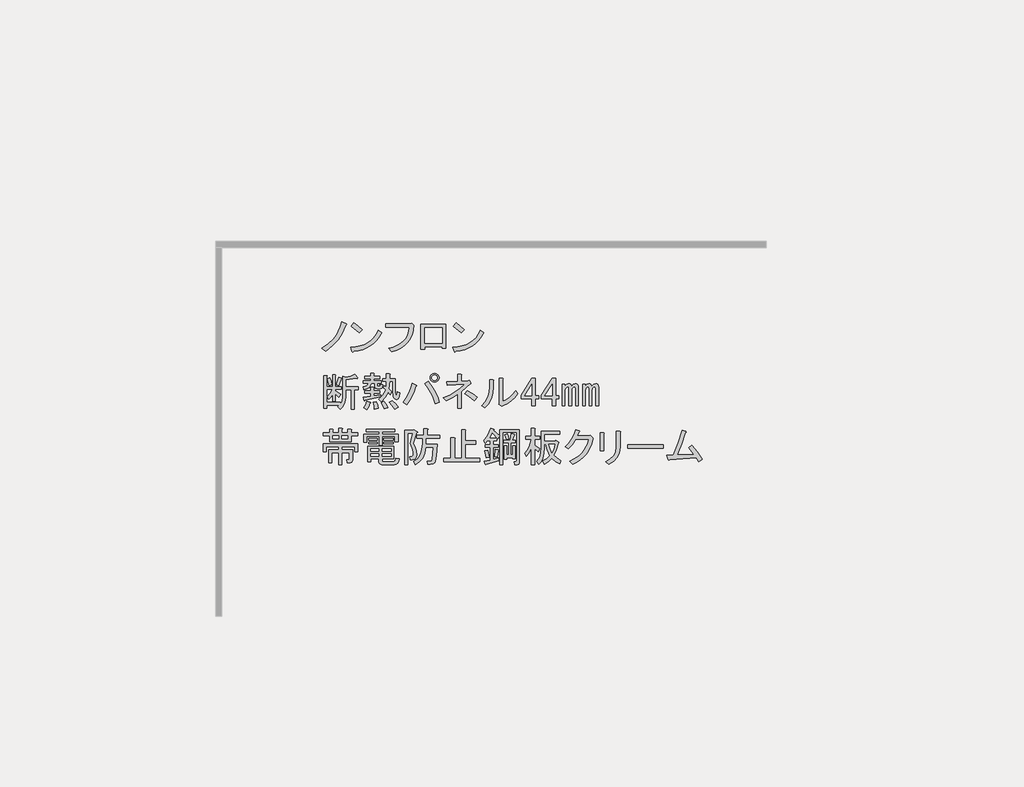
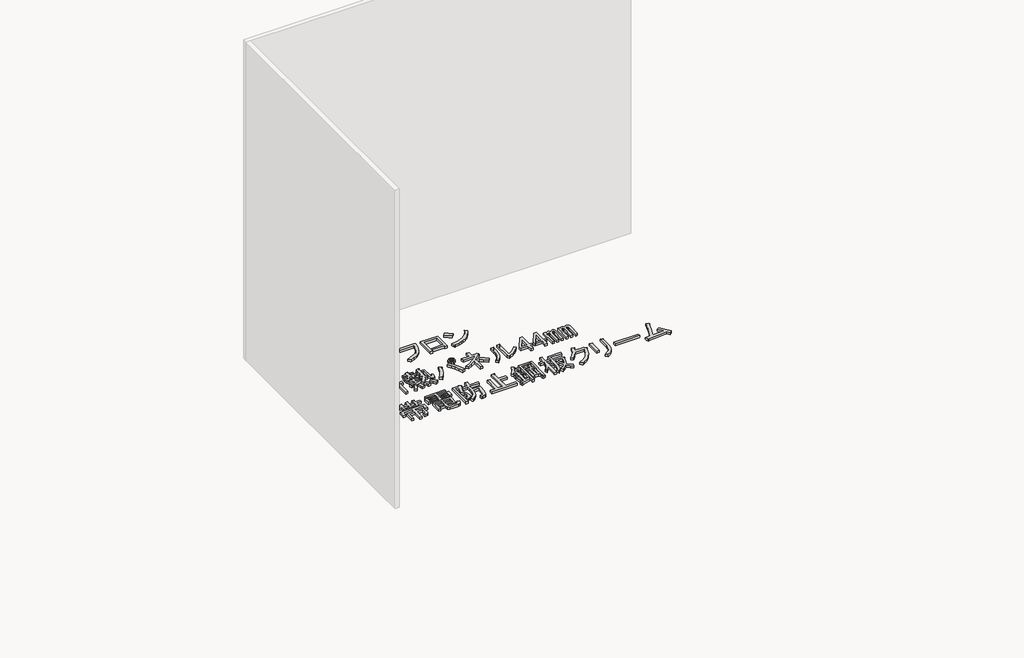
# One storey, part 71 of 117: 1 proxy.
"""IFC4 building model written with IfcOpenShell, lengths in millimetres."""

from ifc_helpers import new_model, si_unit, frame, origin, place, context, project, spatial, polyline, outline, extrude, element, save

model = new_model("IFC4")

# Units and contexts
model_context = context("Model", 3, world=origin())
ifc_project = project(units=[si_unit("LENGTHUNIT", "METRE", prefix="MILLI")], contexts=[model_context])

# Site, building, storey
site = spatial("IfcSite", under=ifc_project)
building = spatial("IfcBuilding", under=site)
storey = spatial("IfcBuildingStorey", under=building, Name="レベル 1", Elevation=500.0)

# Proxy
placement = place(None, origin())
element("IfcBuildingElementProxy", 1, Name="200㎜\u3000MS Pゴシック", ObjectType="200㎜\u3000MS Pゴシック", at=placement, inside=storey, context=model_context, shape_type="SweptSolid", body=[
    extrude(outline(polyline([(-15056.3293015, 11392.9503118), (-15081.9047498, 11333.1784775), (-15110.353844, 11287.2001434), (-15152.0217093, 11241.7965385), (-15201.1610538, 11204.439142), (-15228.7480543, 11226.2788507), (-15181.0455327, 11256.7394971), (-15141.3892195, 11295.2463519), (-15124.0036619, 11319.1694538), (-15108.6296565, 11347.2593423), (-15095.2672031, 11379.5160173), (-15083.9163019, 11415.9394788), (-15052.8809264, 11402.1459786), (-15049.7199159, 11397.5481452), (-15056.3293015, 11392.9503118)])), frame((0.0, 0.0, 500.0), z_axis=(0.0, 0.0, 1.0), x_axis=(1.0, 0.0, 0.0)), (0.0, 0.0, 1.0), 25.0),
    extrude(outline(polyline([(-14956.6022948, 11337.7763109), (-15015.2246708, 11384.9041033), (-14995.6838788, 11409.0427287), (-14968.3842429, 11389.2145721), (-14934.7625862, 11359.6160196), (-14956.6022948, 11337.7763109)])), frame((0.0, 0.0, 500.0), z_axis=(0.0, 0.0, 1.0), x_axis=(1.0, 0.0, 0.0)), (0.0, 0.0, 1.0), 25.0),
    extrude(outline(polyline([(-14794.5286672, 11337.7763109), (-14811.052131, 11308.034076), (-14830.1618761, 11282.0275808), (-14851.8579025, 11259.7568252), (-14876.1402102, 11241.2218093), (-14903.0087992, 11226.422533), (-14932.4636694, 11215.3589964), (-14964.504821, 11208.0311994), (-14999.1322539, 11204.439142), (-15004.8795456, 11196.3929336), (-15010.6268374, 11202.1402253), (-15019.8225042, 11232.0261425), (-14983.9917321, 11234.7022252), (-14951.2142088, 11241.0062859), (-14921.4899342, 11250.9383244), (-14894.8189084, 11264.4983409), (-14871.2011313, 11281.6863354), (-14850.636603, 11302.5023077), (-14833.1253234, 11326.946258), (-14818.6672926, 11355.0181862), (-14794.5286672, 11337.7763109)])), frame((0.0, 0.0, 500.0), z_axis=(0.0, 0.0, 1.0), x_axis=(1.0, 0.0, 0.0)), (0.0, 0.0, 1.0), 25.0),
    extrude(outline(polyline([(-14743.7685864, 11222.8304757), (-14709.985287, 11232.5110702), (-14680.4765359, 11244.8857078), (-14655.242333, 11259.9543884), (-14634.2826783, 11277.717112), (-14617.597572, 11298.1738786), (-14605.1870138, 11321.3246882), (-14597.0510039, 11347.1695409), (-14593.1895423, 11375.7084365), (-14765.6082951, 11375.7084365), (-14765.6082951, 11400.9965202), (-14590.8906256, 11400.9965202), (-14574.7982086, 11404.4448953), (-14562.1541668, 11392.9503118), (-14565.674383, 11356.4550091), (-14573.9361149, 11323.4080815), (-14586.9393625, 11293.8095289), (-14604.6841258, 11267.6593514), (-14627.1704048, 11244.957549), (-14654.3981995, 11225.7041216), (-14686.3675099, 11209.8990692), (-14723.078336, 11197.5423919), (-14743.7685864, 11222.8304757)])), frame((0.0, 0.0, 500.0), z_axis=(0.0, 0.0, 1.0), x_axis=(1.0, 0.0, 0.0)), (0.0, 0.0, 1.0), 25.0),
    extrude(outline(polyline([(-14329.044013, 11223.979934), (-14355.4815551, 11223.979934), (-14355.4815551, 11236.6239759), (-14483.0714321, 11236.6239759), (-14483.0714321, 11218.2326423), (-14509.5089742, 11218.2326423), (-14509.5089742, 11397.5481452), (-14329.044013, 11397.5481452), (-14329.044013, 11223.979934)]), holes=[polyline([(-14483.0714321, 11372.2600614), (-14483.0714321, 11261.9120596), (-14355.4815551, 11261.9120596), (-14355.4815551, 11372.2600614), (-14483.0714321, 11372.2600614)])]), frame((0.0, 0.0, 500.0), z_axis=(0.0, 0.0, 1.0), x_axis=(1.0, 0.0, 0.0)), (0.0, 0.0, 1.0), 25.0),
    extrude(outline(polyline([(-14052.9900951, 11337.7763109), (-14069.5135589, 11308.034076), (-14088.623304, 11282.0275808), (-14110.3193304, 11259.7568252), (-14134.6016381, 11241.2218093), (-14161.4702271, 11226.422533), (-14190.9250974, 11215.3589964), (-14222.9662489, 11208.0311994), (-14257.5936818, 11204.439142), (-14263.3409736, 11196.3929336), (-14269.0882653, 11202.1402253), (-14278.2839321, 11232.0261425), (-14242.4531601, 11234.7022252), (-14209.6756367, 11241.0062859), (-14179.9513622, 11250.9383244), (-14153.2803363, 11264.4983409), (-14129.6625593, 11281.6863354), (-14109.0980309, 11302.5023077), (-14091.5867514, 11326.946258), (-14077.1287205, 11355.0181862), (-14052.9900951, 11337.7763109)])), frame((0.0, 0.0, 500.0), z_axis=(0.0, 0.0, 1.0), x_axis=(1.0, 0.0, 0.0)), (0.0, 0.0, 1.0), 25.0),
    extrude(outline(polyline([(-14215.0637228, 11337.7763109), (-14273.6860987, 11384.9041033), (-14254.1453067, 11409.0427287), (-14226.8456709, 11389.2145721), (-14193.2240141, 11359.6160196), (-14215.0637228, 11337.7763109)])), frame((0.0, 0.0, 500.0), z_axis=(0.0, 0.0, 1.0), x_axis=(1.0, 0.0, 0.0)), (0.0, 0.0, 1.0), 25.0),
    extrude(outline(polyline([(-15122.9978859, 10960.7654779), (-15105.7560106, 11013.6405621), (-15085.0657603, 11007.8932704), (-15083.3415727, 11004.7322599), (-15087.364677, 11002.1459786), (-15104.6065522, 10953.8687278), (-15122.9978859, 10960.7654779)])), frame((0.0, 0.0, 500.0), z_axis=(0.0, 0.0, 1.0), x_axis=(1.0, 0.0, 0.0)), (0.0, 0.0, 1.0), 25.0),
    extrude(outline(polyline([(-14968.9704667, 11009.0427287), (-14970.6946542, 11004.4448953), (-14978.1661335, 11006.743812), (-15055.1798431, 10994.0997701), (-15055.1798431, 10944.673061), (-14963.2231749, 10944.673061), (-14963.2231749, 10922.8333523), (-14994.2585505, 10922.8333523), (-14994.2585505, 10782.5994334), (-15017.2477175, 10782.5994334), (-15017.2477175, 10922.8333523), (-15055.1798431, 10922.8333523), (-15055.1798431, 10873.4066432), (-15057.7661244, 10845.6041193), (-15065.5249683, 10820.8189236), (-15078.4563747, 10799.051056), (-15096.5603438, 10780.3005167), (-15113.8022191, 10799.8413086), (-15103.4570939, 10809.0369755), (-15193.1148454, 10809.0369755), (-15193.1148454, 10787.1972668), (-15216.1040124, 10787.1972668), (-15216.1040124, 11026.284604), (-15194.2643037, 11026.284604), (-15189.3791057, 11023.9856873), (-15193.1148454, 11019.3878539), (-15193.1148454, 10943.5236026), (-15150.5848863, 10943.5236026), (-15150.5848863, 11030.8824374), (-15132.1935527, 11030.8824374), (-15127.3083547, 11028.5835207), (-15131.0440943, 11023.9856873), (-15131.0440943, 10943.5236026), (-15087.364677, 10943.5236026), (-15087.364677, 10925.132269), (-15131.0440943, 10925.132269), (-15131.0440943, 10915.9366022), (-15090.813052, 10889.4990601), (-15104.6065522, 10867.6593514), (-15131.0440943, 10894.0968935), (-15131.0440943, 10841.2218093), (-15150.5848863, 10841.2218093), (-15150.5848863, 10889.4990601), (-15163.8036574, 10869.6709035), (-15178.1718868, 10853.8658512), (-15190.8159287, 10872.2571848), (-15168.97622, 10896.3958102), (-15151.7343447, 10925.132269), (-15193.1148454, 10925.132269), (-15193.1148454, 10830.8766841), (-15095.4108854, 10830.8766841), (-15095.4108854, 10817.0831839), (-15082.479479, 10841.2218093), (-15078.1690102, 10874.5561015), (-15078.1690102, 11019.3878539), (-15056.3293015, 11013.6405621), (-15020.1213634, 11021.1120414), (-14989.660717, 11034.3308125), (-14968.9704667, 11009.0427287)])), frame((0.0, 0.0, 500.0), z_axis=(0.0, 0.0, 1.0), x_axis=(1.0, 0.0, 0.0)), (0.0, 0.0, 1.0), 25.0),
    extrude(outline(polyline([(-15177.0224284, 10952.7192695), (-15189.6664703, 11003.2954369), (-15170.1256783, 11010.1921871), (-15162.3668344, 10986.0535617), (-15157.4816364, 10959.6160196), (-15177.0224284, 10952.7192695)])), frame((0.0, 0.0, 500.0), z_axis=(0.0, 0.0, 1.0), x_axis=(1.0, 0.0, 0.0)), (0.0, 0.0, 1.0), 25.0),
    extrude(outline(polyline([(-14878.1632569, 10832.0261425), (-14874.7148818, 10827.1409445), (-14880.4621736, 10823.979934), (-14890.2325696, 10798.4044857), (-14901.1524239, 10779.1510583), (-14924.141591, 10790.6456418), (-14911.4975491, 10814.209538), (-14901.1524239, 10841.2218093), (-14878.1632569, 10832.0261425)])), frame((0.0, 0.0, 500.0), z_axis=(0.0, 0.0, 1.0), x_axis=(1.0, 0.0, 0.0)), (0.0, 0.0, 1.0), 25.0),
    extrude(outline(polyline([(-14833.3343812, 10836.6239759), (-14823.2766206, 10809.32434), (-14818.3914226, 10787.1972668), (-14847.1278814, 10781.449975), (-14849.7141627, 10803.0023191), (-14857.4730066, 10833.1756008), (-14833.3343812, 10836.6239759)])), frame((0.0, 0.0, 500.0), z_axis=(0.0, 0.0, 1.0), x_axis=(1.0, 0.0, 0.0)), (0.0, 0.0, 1.0), 25.0),
    extrude(outline(polyline([(-14718.388546, 10842.3712677), (-14693.6751914, 10821.1062881), (-14674.7091286, 10796.3929336), (-14701.1466707, 10781.449975), (-14720.4000981, 10811.0485276), (-14739.0787963, 10830.8766841), (-14718.388546, 10842.3712677)])), frame((0.0, 0.0, 500.0), z_axis=(0.0, 0.0, 1.0), x_axis=(1.0, 0.0, 0.0)), (0.0, 0.0, 1.0), 25.0),
    extrude(outline(polyline([(-14777.0109219, 10783.7488917), (-14785.344495, 10808.4622463), (-14798.8506306, 10829.7272258), (-14778.1603803, 10837.7734343), (-14761.2058696, 10816.2210902), (-14749.4239215, 10792.9445585), (-14777.0109219, 10783.7488917)])), frame((0.0, 0.0, 500.0), z_axis=(0.0, 0.0, 1.0), x_axis=(1.0, 0.0, 0.0)), (0.0, 0.0, 1.0), 25.0),
    extrude(outline(polyline([(-14916.0953825, 10846.9691011), (-14918.1069346, 10842.0839031), (-14921.8426743, 10843.520726), (-14927.589966, 10867.6593514), (-14872.4159651, 10875.7055599), (-14872.4159651, 10898.6947269), (-14916.0953825, 10898.6947269), (-14916.0953825, 10917.0860605), (-14872.4159651, 10917.0860605), (-14872.4159651, 10940.0752276), (-14854.0246315, 10940.0752276), (-14849.1394335, 10937.7763109), (-14852.8751732, 10933.1784775), (-14852.8751732, 10917.0860605), (-14808.0462974, 10917.0860605), (-14808.0462974, 10898.6947269), (-14852.8751732, 10898.6947269), (-14852.8751732, 10879.1539349), (-14802.2990057, 10888.3496017), (-14802.2990057, 10872.2571848), (-14916.0953825, 10846.9691011)])), frame((0.0, 0.0, 500.0), z_axis=(0.0, 0.0, 1.0), x_axis=(1.0, 0.0, 0.0)), (0.0, 0.0, 1.0), 25.0),
    extrude(outline(polyline([(-14845.978423, 10968.8116864), (-14871.2665068, 10968.8116864), (-14875.8643402, 10951.3542877), (-14886.2094654, 10938.0636755), (-14902.3018823, 10928.9398498), (-14924.141591, 10923.9828107), (-14928.7394244, 10943.5236026), (-14903.4513406, 10952.1445403), (-14895.9798614, 10959.4723373), (-14891.9567571, 10968.8116864), (-14927.589966, 10968.8116864), (-14927.589966, 10987.20302), (-14873.5654235, 10987.20302), (-14873.5654235, 11004.4448953), (-14917.2448409, 11004.4448953), (-14917.2448409, 11022.8362289), (-14873.5654235, 11022.8362289), (-14873.5654235, 11041.2275626), (-14851.7257148, 11041.2275626), (-14846.8405168, 11038.9286459), (-14850.5762564, 11034.3308125), (-14850.5762564, 11022.8362289), (-14808.0462974, 11022.8362289), (-14808.0462974, 11004.4448953), (-14850.5762564, 11004.4448953), (-14850.5762564, 10987.20302), (-14797.7011723, 10987.20302), (-14797.7011723, 10968.8116864), (-14826.4376311, 10968.8116864), (-14826.4376311, 10956.1676445), (-14825.0008081, 10950.9950819), (-14820.6903393, 10949.2708944), (-14810.3452141, 10949.2708944), (-14806.6094745, 10952.4319049), (-14806.8968391, 10961.9149363), (-14787.3560471, 10959.6160196), (-14790.229693, 10938.0636755), (-14795.5459378, 10932.6755894), (-14803.448464, 10930.8795608), (-14827.5870894, 10930.8795608), (-14841.3805896, 10935.7647588), (-14845.978423, 10950.4203528), (-14845.978423, 10968.8116864)])), frame((0.0, 0.0, 500.0), z_axis=(0.0, 0.0, 1.0), x_axis=(1.0, 0.0, 0.0)), (0.0, 0.0, 1.0), 25.0),
    extrude(outline(polyline([(-14714.9401709, 10986.0535617), (-14736.7798796, 10986.0535617), (-14741.377713, 10928.5806441), (-14721.836921, 10910.1893104), (-14732.1820462, 10888.3496017), (-14748.2744631, 10904.4420187), (-14767.5278905, 10866.7972576), (-14797.7011723, 10834.3250592), (-14814.9430475, 10855.0153095), (-14799.8564067, 10866.9409399), (-14786.7813179, 10882.0275808), (-14775.7177813, 10900.2752321), (-14766.6657967, 10921.683894), (-14783.907672, 10936.6268525), (-14775.8614636, 10953.8687278), (-14762.0679633, 10943.5236026), (-14759.7690466, 10986.0535617), (-14787.3560471, 10986.0535617), (-14787.3560471, 11004.4448953), (-14759.7690466, 11004.4448953), (-14759.7690466, 11038.9286459), (-14737.9293379, 11038.9286459), (-14733.04414, 11036.6297292), (-14736.7798796, 11032.0318957), (-14736.7798796, 11004.4448953), (-14695.3993789, 11004.4448953), (-14695.3993789, 10907.8903937), (-14691.9510039, 10883.7517683), (-14688.7181523, 10881.7402162), (-14685.9163475, 10884.9012267), (-14681.6058787, 10906.7409354), (-14662.0650867, 10899.8441853), (-14666.591079, 10873.0474374), (-14674.421764, 10857.0268616), (-14685.5571418, 10851.7824579), (-14699.9972123, 10857.3142262), (-14706.5347567, 10864.6420232), (-14711.2044313, 10876.280289), (-14714.9401709, 10912.4882271), (-14714.9401709, 10986.0535617)])), frame((0.0, 0.0, 500.0), z_axis=(0.0, 0.0, 1.0), x_axis=(1.0, 0.0, 0.0)), (0.0, 0.0, 1.0), 25.0),
    extrude(outline(polyline([(-14456.3120417, 10983.754645), (-14429.6589762, 10947.0438188), (-14407.1726971, 10909.3272167), (-14388.8532047, 10870.6048384), (-14374.7004987, 10830.8766841), (-14405.7358742, 10820.531559), (-14421.1817208, 10863.6362472), (-14438.7828018, 10902.143102), (-14458.5391173, 10936.0521234), (-14480.4506671, 10965.3633113), (-14456.3120417, 10983.754645)])), frame((0.0, 0.0, 500.0), z_axis=(0.0, 0.0, 1.0), x_axis=(1.0, 0.0, 0.0)), (0.0, 0.0, 1.0), 25.0),
    extrude(outline(polyline([(-14543.6708765, 10957.3171029), (-14539.6477722, 10951.8571757), (-14545.9697932, 10946.9719777), (-14557.8954236, 10911.5542922), (-14572.9820644, 10877.717112), (-14591.2297158, 10845.460437), (-14612.6383776, 10814.7842672), (-14639.0759197, 10832.0261425), (-14615.8712292, 10863.4925649), (-14596.8333252, 10896.9705394), (-14581.9622078, 10932.460066), (-14571.2578769, 10969.9611447), (-14543.6708765, 10957.3171029)])), frame((0.0, 0.0, 500.0), z_axis=(0.0, 0.0, 1.0), x_axis=(1.0, 0.0, 0.0)), (0.0, 0.0, 1.0), 25.0),
    extrude(outline(polyline([(-14410.3337076, 10978.0073532), (-14422.9777495, 10980.3062699), (-14433.3228747, 10987.20302), (-14440.2196248, 10997.5481452), (-14442.5185415, 11010.1921871), (-14440.2196248, 11022.8362289), (-14433.3228747, 11033.1813541), (-14422.9777495, 11040.0781042), (-14410.3337076, 11042.3770209), (-14397.6896657, 11040.0781042), (-14387.3445406, 11033.1813541), (-14380.4477905, 11022.8362289), (-14378.1488738, 11010.1921871), (-14380.4477905, 10997.5481452), (-14387.3445406, 10987.20302), (-14397.6896657, 10980.3062699), (-14410.3337076, 10978.0073532)]), holes=[polyline([(-14410.3337076, 10989.5019367), (-14402.0001346, 10990.9387597), (-14395.390749, 10995.2492285), (-14391.0802802, 11001.858614), (-14389.6434573, 11010.1921871), (-14391.0802802, 11018.5257601), (-14395.390749, 11025.1351456), (-14402.0001346, 11029.4456145), (-14410.3337076, 11030.8824374), (-14418.6672807, 11029.4456145), (-14425.2766662, 11025.1351456), (-14429.587135, 11018.5257601), (-14431.023958, 11010.1921871), (-14429.587135, 11001.858614), (-14425.2766662, 10995.2492285), (-14418.6672807, 10990.9387597), (-14410.3337076, 10989.5019367)])]), frame((0.0, 0.0, 500.0), z_axis=(0.0, 0.0, 1.0), x_axis=(1.0, 0.0, 0.0)), (0.0, 0.0, 1.0), 25.0),
    extrude(outline(polyline([(-14120.6702029, 10844.6701844), (-14157.7402348, 10873.9813723), (-14190.7871624, 10895.2463519), (-14173.5452871, 10917.0860605), (-14134.7510677, 10893.8095289), (-14101.1294109, 10867.6593514), (-14120.6702029, 10844.6701844)])), frame((0.0, 0.0, 500.0), z_axis=(0.0, 0.0, 1.0), x_axis=(1.0, 0.0, 0.0)), (0.0, 0.0, 1.0), 25.0),
    extrude(outline(polyline([(-14166.648537, 10988.3524784), (-14159.7517869, 10990.6513951), (-14147.107745, 10973.4095198), (-14145.9582866, 10967.3748634), (-14151.7055784, 10965.3633113), (-14214.9257878, 10909.0398521), (-14214.9257878, 10788.3467251), (-14241.3633299, 10788.3467251), (-14241.3633299, 10890.6485184), (-14281.5943722, 10866.5098931), (-14326.4232479, 10844.6701844), (-14345.9640399, 10865.3604347), (-14300.4167527, 10884.8293855), (-14259.1799343, 10907.6030291), (-14222.2535848, 10933.6813655), (-14189.637704, 10963.0643946), (-14319.5264978, 10957.3171029), (-14322.9748729, 10982.6051866), (-14241.3633299, 10984.9041033), (-14241.3633299, 11036.6297292), (-14218.3741628, 11036.6297292), (-14212.3395065, 11033.1813541), (-14214.9257878, 11027.4340623), (-14214.9257878, 10986.0535617), (-14166.648537, 10988.3524784)])), frame((0.0, 0.0, 500.0), z_axis=(0.0, 0.0, 1.0), x_axis=(1.0, 0.0, 0.0)), (0.0, 0.0, 1.0), 25.0),
    extrude(outline(polyline([(-14067.703162, 10806.7380587), (-14042.5587606, 10835.9774056), (-14024.5984738, 10868.5214452), (-14013.8223018, 10904.3701775), (-14010.2302444, 10943.5236026), (-14010.2302444, 10995.2492285), (-13986.091619, 10995.2492285), (-13980.3443273, 10991.8008534), (-13983.7927023, 10986.0535617), (-13983.7927023, 10944.673061), (-13987.6002831, 10898.9102504), (-13999.0230255, 10858.17632), (-14018.0609295, 10822.4712699), (-14044.713995, 10791.7951002), (-14067.703162, 10806.7380587)])), frame((0.0, 0.0, 500.0), z_axis=(0.0, 0.0, 1.0), x_axis=(1.0, 0.0, 0.0)), (0.0, 0.0, 1.0), 25.0),
    extrude(outline(polyline([(-13913.6757429, 10837.7734343), (-13888.8905471, 10849.9864292), (-13865.1111275, 10867.0846222), (-13842.3374839, 10889.0680132), (-13820.5696163, 10915.9366022), (-13804.4771994, 10894.0968935), (-13827.753731, 10866.2943696), (-13853.9039086, 10842.6586322), (-13882.9277319, 10823.1896814), (-13914.8252012, 10807.8875171), (-13924.020868, 10803.2896837), (-13942.4122017, 10817.0831839), (-13940.113285, 10822.8304757), (-13940.113285, 11007.8932704), (-13915.9746596, 11007.8932704), (-13910.2273678, 11004.4448953), (-13913.6757429, 10998.6976035), (-13913.6757429, 10837.7734343)])), frame((0.0, 0.0, 500.0), z_axis=(0.0, 0.0, 1.0), x_axis=(1.0, 0.0, 0.0)), (0.0, 0.0, 1.0), 25.0),
    extrude(outline(polyline([(-13704.4743228, 11006.743812), (-13678.0367807, 11006.743812), (-13678.0367807, 10880.3033933), (-13653.8981553, 10880.3033933), (-13653.8981553, 10858.4636846), (-13678.0367807, 10858.4636846), (-13678.0367807, 10807.8875171), (-13704.4743228, 10807.8875171), (-13704.4743228, 10858.4636846), (-13781.4880324, 10858.4636846), (-13781.4880324, 10881.4528516), (-13704.4743228, 11006.743812)]), holes=[polyline([(-13704.4743228, 10964.213853), (-13756.1999486, 10880.3033933), (-13704.4743228, 10880.3033933), (-13704.4743228, 10964.213853)])]), frame((0.0, 0.0, 500.0), z_axis=(0.0, 0.0, 1.0), x_axis=(1.0, 0.0, 0.0)), (0.0, 0.0, 1.0), 25.0),
    extrude(outline(polyline([(-13557.3436537, 11006.743812), (-13530.9061116, 11006.743812), (-13530.9061116, 10880.3033933), (-13506.7674862, 10880.3033933), (-13506.7674862, 10858.4636846), (-13530.9061116, 10858.4636846), (-13530.9061116, 10807.8875171), (-13557.3436537, 10807.8875171), (-13557.3436537, 10858.4636846), (-13634.3573633, 10858.4636846), (-13634.3573633, 10881.4528516), (-13557.3436537, 11006.743812)]), holes=[polyline([(-13557.3436537, 10964.213853), (-13609.0692796, 10880.3033933), (-13557.3436537, 10880.3033933), (-13557.3436537, 10964.213853)])]), frame((0.0, 0.0, 500.0), z_axis=(0.0, 0.0, 1.0), x_axis=(1.0, 0.0, 0.0)), (0.0, 0.0, 1.0), 25.0),
    extrude(outline(polyline([(-13463.0880689, 10806.7380587), (-13482.6288608, 10806.7380587), (-13482.6288608, 10964.213853), (-13463.0880689, 10964.213853), (-13463.0880689, 10946.9719777), (-13451.0187562, 10962.4896654), (-13437.7999851, 10967.662228), (-13428.6043183, 10966.2254051), (-13421.7075682, 10961.9149363), (-13414.8108181, 10948.121436), (-13401.8794116, 10962.77703), (-13388.373276, 10967.662228), (-13380.0397029, 10966.2254051), (-13373.4303174, 10961.9149363), (-13368.2577548, 10953.2939986), (-13366.5335673, 10941.2246859), (-13366.5335673, 10806.7380587), (-13386.0743593, 10806.7380587), (-13386.0743593, 10930.8795608), (-13388.6606406, 10940.3625922), (-13396.4194844, 10943.5236026), (-13406.7646096, 10938.9257692), (-13412.799266, 10930.3048316), (-13414.8108181, 10920.5344356), (-13414.8108181, 10806.7380587), (-13434.3516101, 10806.7380587), (-13434.3516101, 10930.8795608), (-13436.9378914, 10940.3625922), (-13444.6967352, 10943.5236026), (-13455.0418604, 10938.9257692), (-13461.0765167, 10930.3048316), (-13463.0880689, 10920.5344356), (-13463.0880689, 10806.7380587)])), frame((0.0, 0.0, 500.0), z_axis=(0.0, 0.0, 1.0), x_axis=(1.0, 0.0, 0.0)), (0.0, 0.0, 1.0), 25.0),
    extrude(outline(polyline([(-13241.2426069, 10967.662228), (-13232.9090339, 10966.2254051), (-13226.2996483, 10961.9149363), (-13221.1270858, 10953.2939986), (-13219.4028982, 10941.2246859), (-13219.4028982, 10806.7380587), (-13238.9436902, 10806.7380587), (-13238.9436902, 10930.8795608), (-13241.5299715, 10940.3625922), (-13249.2888154, 10943.5236026), (-13259.6339406, 10938.9257692), (-13265.6685969, 10930.3048316), (-13267.680149, 10920.5344356), (-13267.680149, 10806.7380587), (-13287.220941, 10806.7380587), (-13287.220941, 10930.8795608), (-13289.8072223, 10940.3625922), (-13297.5660662, 10943.5236026), (-13307.9111913, 10938.9257692), (-13313.9458477, 10930.3048316), (-13315.9573998, 10920.5344356), (-13315.9573998, 10806.7380587), (-13335.4981918, 10806.7380587), (-13335.4981918, 10964.213853), (-13315.9573998, 10964.213853), (-13315.9573998, 10946.9719777), (-13303.8880871, 10962.4896654), (-13290.6693161, 10967.662228), (-13281.4736492, 10966.2254051), (-13274.5768991, 10961.9149363), (-13267.680149, 10948.121436), (-13254.7487426, 10962.77703), (-13241.2426069, 10967.662228)])), frame((0.0, 0.0, 500.0), z_axis=(0.0, 0.0, 1.0), x_axis=(1.0, 0.0, 0.0)), (0.0, 0.0, 1.0), 25.0),
    extrude(outline(polyline([(-15172.424595, 10546.9719777), (-15172.424595, 10567.662228), (-15172.424595, 10588.3524784), (-15218.4029291, 10588.3524784), (-15218.4029291, 10610.1921871), (-15172.424595, 10610.1921871), (-15172.424595, 10635.4802708), (-15150.5848863, 10635.4802708), (-15145.6996883, 10633.1813541), (-15149.435428, 10628.5835207), (-15149.435428, 10610.1921871), (-15105.7560106, 10610.1921871), (-15105.7560106, 10642.3770209), (-15083.9163019, 10642.3770209), (-15079.0311039, 10640.0781042), (-15082.7668436, 10635.4802708), (-15082.7668436, 10610.1921871), (-15040.2368845, 10610.1921871), (-15040.2368845, 10635.4802708), (-15018.3971758, 10635.4802708), (-15013.5119779, 10633.1813541), (-15017.2477175, 10628.5835207), (-15017.2477175, 10610.1921871), (-14970.1199251, 10610.1921871), (-14970.1199251, 10588.3524784), (-15017.2477175, 10588.3524784), (-15017.2477175, 10546.9719777), (-15172.424595, 10546.9719777)]), holes=[polyline([(-15105.7560106, 10588.3524784), (-15149.435428, 10588.3524784), (-15149.435428, 10565.3633113), (-15105.7560106, 10565.3633113), (-15105.7560106, 10588.3524784)]), polyline([(-15040.2368845, 10588.3524784), (-15082.7668436, 10588.3524784), (-15082.7668436, 10565.3633113), (-15040.2368845, 10565.3633113), (-15040.2368845, 10588.3524784)])]), frame((0.0, 0.0, 500.0), z_axis=(0.0, 0.0, 1.0), x_axis=(1.0, 0.0, 0.0)), (0.0, 0.0, 1.0), 25.0),
    extrude(outline(polyline([(-14967.8210084, 10473.4066432), (-14990.8101754, 10473.4066432), (-14990.8101754, 10510.1893104), (-15082.7668436, 10510.1893104), (-15082.7668436, 10486.050685), (-15005.753134, 10486.050685), (-15005.753134, 10411.3358922), (-15010.3509674, 10397.5423919), (-15024.1444676, 10392.9445585), (-15045.9841763, 10392.9445585), (-15049.4325514, 10414.7842672), (-15033.3401344, 10414.7842672), (-15029.8917594, 10415.9337256), (-15028.742301, 10419.3821006), (-15028.742301, 10464.2109763), (-15082.7668436, 10464.2109763), (-15082.7668436, 10376.8521416), (-15105.7560106, 10376.8521416), (-15105.7560106, 10464.2109763), (-15157.4816364, 10464.2109763), (-15157.4816364, 10391.7951002), (-15180.4708035, 10391.7951002), (-15180.4708035, 10486.050685), (-15105.7560106, 10486.050685), (-15105.7560106, 10510.1893104), (-15197.7126788, 10510.1893104), (-15197.7126788, 10473.4066432), (-15220.7018458, 10473.4066432), (-15220.7018458, 10532.0290191), (-14967.8210084, 10532.0290191), (-14967.8210084, 10473.4066432)])), frame((0.0, 0.0, 500.0), z_axis=(0.0, 0.0, 1.0), x_axis=(1.0, 0.0, 0.0)), (0.0, 0.0, 1.0), 25.0),
    extrude(outline(polyline([(-14666.6629201, 10421.6810173), (-14669.4647249, 10403.0741603), (-14676.7206807, 10389.7835481), (-14688.4307877, 10381.8091807), (-14704.5950457, 10379.1510583), (-14794.2527972, 10379.1510583), (-14809.770485, 10384.0362563), (-14813.6499069, 10390.1427538), (-14814.9430475, 10398.6918503), (-14814.9430475, 10420.531559), (-14874.7148818, 10420.531559), (-14874.7148818, 10400.990767), (-14894.2556738, 10400.990767), (-14894.2556738, 10513.6376855), (-14706.8939624, 10513.6376855), (-14706.8939624, 10420.531559), (-14791.9538805, 10420.531559), (-14791.9538805, 10410.1864338), (-14789.9423284, 10403.2896837), (-14783.907672, 10400.990767), (-14708.0434208, 10400.990767), (-14701.4340353, 10402.5712722), (-14696.5488373, 10407.3127879), (-14691.9510039, 10426.2788507), (-14666.6629201, 10421.6810173)]), holes=[polyline([(-14874.7148818, 10438.9228926), (-14814.9430475, 10438.9228926), (-14814.9430475, 10458.4636846), (-14874.7148818, 10458.4636846), (-14874.7148818, 10438.9228926)]), polyline([(-14874.7148818, 10476.8550182), (-14814.9430475, 10476.8550182), (-14814.9430475, 10495.2463519), (-14874.7148818, 10495.2463519), (-14874.7148818, 10476.8550182)]), polyline([(-14791.9538805, 10438.9228926), (-14726.4347544, 10438.9228926), (-14726.4347544, 10458.4636846), (-14791.9538805, 10458.4636846), (-14791.9538805, 10438.9228926)]), polyline([(-14791.9538805, 10476.8550182), (-14726.4347544, 10476.8550182), (-14726.4347544, 10495.2463519), (-14791.9538805, 10495.2463519), (-14791.9538805, 10476.8550182)])]), frame((0.0, 0.0, 500.0), z_axis=(0.0, 0.0, 1.0), x_axis=(1.0, 0.0, 0.0)), (0.0, 0.0, 1.0), 25.0),
    extrude(outline(polyline([(-14888.5083821, 10557.3171029), (-14888.5083821, 10571.1106031), (-14825.2881727, 10571.1106031), (-14825.2881727, 10557.3171029), (-14888.5083821, 10557.3171029)])), frame((0.0, 0.0, 500.0), z_axis=(0.0, 0.0, 1.0), x_axis=(1.0, 0.0, 0.0)), (0.0, 0.0, 1.0), 25.0),
    extrude(outline(polyline([(-14825.2881727, 10529.7301024), (-14888.5083821, 10529.7301024), (-14888.5083821, 10543.5236026), (-14825.2881727, 10543.5236026), (-14825.2881727, 10529.7301024)])), frame((0.0, 0.0, 500.0), z_axis=(0.0, 0.0, 1.0), x_axis=(1.0, 0.0, 0.0)), (0.0, 0.0, 1.0), 25.0),
    extrude(outline(polyline([(-14778.1603803, 10529.7301024), (-14778.1603803, 10543.5236026), (-14711.4917959, 10543.5236026), (-14711.4917959, 10529.7301024), (-14778.1603803, 10529.7301024)])), frame((0.0, 0.0, 500.0), z_axis=(0.0, 0.0, 1.0), x_axis=(1.0, 0.0, 0.0)), (0.0, 0.0, 1.0), 25.0),
    extrude(outline(polyline([(-14778.1603803, 10557.3171029), (-14778.1603803, 10571.1106031), (-14711.4917959, 10571.1106031), (-14711.4917959, 10557.3171029), (-14778.1603803, 10557.3171029)])), frame((0.0, 0.0, 500.0), z_axis=(0.0, 0.0, 1.0), x_axis=(1.0, 0.0, 0.0)), (0.0, 0.0, 1.0), 25.0),
    extrude(outline(polyline([(-14698.847754, 10618.2383955), (-14790.8044221, 10618.2383955), (-14790.8044221, 10599.8470619), (-14675.8585869, 10599.8470619), (-14675.8585869, 10544.673061), (-14698.847754, 10544.673061), (-14698.847754, 10586.0535617), (-14790.8044221, 10586.0535617), (-14790.8044221, 10520.5344356), (-14813.7935892, 10520.5344356), (-14813.7935892, 10586.0535617), (-14902.3018823, 10586.0535617), (-14902.3018823, 10540.0752276), (-14925.2910493, 10540.0752276), (-14925.2910493, 10599.8470619), (-14813.7935892, 10599.8470619), (-14813.7935892, 10618.2383955), (-14905.7502573, 10618.2383955), (-14905.7502573, 10636.6297292), (-14698.847754, 10636.6297292), (-14698.847754, 10618.2383955)])), frame((0.0, 0.0, 500.0), z_axis=(0.0, 0.0, 1.0), x_axis=(1.0, 0.0, 0.0)), (0.0, 0.0, 1.0), 25.0),
    extrude(outline(polyline([(-14542.5214181, 10479.1539349), (-14540.5817071, 10451.4950933), (-14545.1076994, 10431.7387779), (-14556.0993949, 10419.8849886), (-14573.5567936, 10415.9337256), (-14587.3502938, 10415.9337256), (-14591.9481272, 10437.7734343), (-14580.4535437, 10437.7734343), (-14572.1199707, 10439.9286687), (-14566.6600435, 10446.3943719), (-14564.0737622, 10457.1705439), (-14564.3611268, 10472.2571848), (-14571.2578769, 10499.2694561), (-14587.3502938, 10534.3279358), (-14568.9589602, 10605.5943537), (-14603.4427108, 10605.5943537), (-14603.4427108, 10376.8521416), (-14626.4318778, 10376.8521416), (-14626.4318778, 10627.4340623), (-14562.0622101, 10627.4340623), (-14559.7632934, 10632.0318957), (-14535.624668, 10619.3878539), (-14534.187845, 10615.6521142), (-14539.073043, 10613.6405621), (-14565.5105851, 10535.4773942), (-14549.9928974, 10503.0051957), (-14542.5214181, 10479.1539349)])), frame((0.0, 0.0, 500.0), z_axis=(0.0, 0.0, 1.0), x_axis=(1.0, 0.0, 0.0)), (0.0, 0.0, 1.0), 25.0),
    extrude(outline(polyline([(-14475.8528337, 10504.4420187), (-14483.0369484, 10461.2654893), (-14497.6925424, 10425.9914861), (-14519.8196156, 10398.6200091), (-14549.4181682, 10379.1510583), (-14560.9127517, 10402.1402253), (-14533.2539101, 10421.9683819), (-14513.4975947, 10450.4174761), (-14501.6438055, 10487.487508), (-14497.6925424, 10533.1784775), (-14497.6925424, 10571.1106031), (-14541.3719597, 10571.1106031), (-14541.3719597, 10592.9503118), (-14488.4968756, 10592.9503118), (-14488.4968756, 10641.2275626), (-14463.2087918, 10641.2275626), (-14457.1741355, 10637.7791875), (-14462.0593335, 10632.0318957), (-14462.0593335, 10592.9503118), (-14373.5510404, 10592.9503118), (-14373.5510404, 10571.1106031), (-14474.7033753, 10571.1106031), (-14474.7033753, 10526.2817274), (-14391.942374, 10526.2817274), (-14397.6896657, 10444.0954552), (-14405.7358742, 10399.8413086), (-14410.6210722, 10391.2922121), (-14418.3799161, 10385.1857146), (-14442.5185415, 10380.3005167), (-14460.9098751, 10380.3005167), (-14464.3582502, 10402.1402253), (-14447.1163749, 10402.1402253), (-14434.7596976, 10405.3012358), (-14427.5755829, 10414.7842672), (-14418.3799161, 10504.4420187), (-14475.8528337, 10504.4420187)])), frame((0.0, 0.0, 500.0), z_axis=(0.0, 0.0, 1.0), x_axis=(1.0, 0.0, 0.0)), (0.0, 0.0, 1.0), 25.0),
    extrude(outline(polyline([(-14188.4882457, 10633.1813541), (-14182.4535893, 10629.732979), (-14187.3387873, 10623.9856873), (-14187.3387873, 10553.8687278), (-14111.4745361, 10553.8687278), (-14111.4745361, 10528.5806441), (-14187.3387873, 10528.5806441), (-14187.3387873, 10425.1293924), (-14081.5886189, 10425.1293924), (-14081.5886189, 10399.8413086), (-14344.8145815, 10399.8413086), (-14344.8145815, 10425.1293924), (-14291.9394974, 10425.1293924), (-14291.9394974, 10575.7084365), (-14266.6514136, 10575.7084365), (-14260.6167573, 10572.2600614), (-14265.5019553, 10566.5127697), (-14265.5019553, 10425.1293924), (-14213.7763294, 10425.1293924), (-14213.7763294, 10633.1813541), (-14188.4882457, 10633.1813541)])), frame((0.0, 0.0, 500.0), z_axis=(0.0, 0.0, 1.0), x_axis=(1.0, 0.0, 0.0)), (0.0, 0.0, 1.0), 25.0),
    extrude(outline(polyline([(-13950.5503668, 10565.3633113), (-13991.9308675, 10609.0427287), (-14013.7705762, 10569.9611447), (-13958.5965753, 10569.9611447), (-13958.5965753, 10551.5698111), (-13985.0341174, 10551.5698111), (-13985.0341174, 10522.8333523), (-13947.1019917, 10522.8333523), (-13947.1019917, 10504.4420187), (-13985.0341174, 10504.4420187), (-13985.0341174, 10417.0831839), (-13945.9525334, 10427.4283091), (-13943.6536167, 10407.8875171), (-14035.6102848, 10382.5994334), (-14037.9092016, 10376.8521416), (-14042.507035, 10380.3005167), (-14049.4037851, 10403.2896837), (-14004.5749093, 10412.4853505), (-14004.5749093, 10504.4420187), (-14042.507035, 10504.4420187), (-14042.507035, 10522.8333523), (-14004.5749093, 10522.8333523), (-14004.5749093, 10551.5698111), (-14026.414618, 10551.5698111), (-14041.3575766, 10533.1784775), (-14054.0016185, 10553.8687278), (-14025.8398889, 10591.5134888), (-14001.1265343, 10642.3770209), (-13979.2868256, 10636.6297292), (-13975.8384505, 10632.8939895), (-13981.5857423, 10630.8824374), (-13982.7352007, 10627.4340623), (-13937.9063249, 10589.5019367), (-13950.5503668, 10565.3633113)])), frame((0.0, 0.0, 500.0), z_axis=(0.0, 0.0, 1.0), x_axis=(1.0, 0.0, 0.0)), (0.0, 0.0, 1.0), 25.0),
    extrude(outline(polyline([(-13882.732324, 10602.1459786), (-13875.5482093, 10586.9156554), (-13870.0882822, 10566.5127697), (-13887.3301574, 10560.7654779), (-13898.824741, 10597.5481452), (-13882.732324, 10602.1459786)])), frame((0.0, 0.0, 500.0), z_axis=(0.0, 0.0, 1.0), x_axis=(1.0, 0.0, 0.0)), (0.0, 0.0, 1.0), 25.0),
    extrude(outline(polyline([(-13829.8572398, 10600.9965202), (-13827.2709585, 10597.5481452), (-13833.3056149, 10594.0997701), (-13845.9496568, 10556.1676445), (-13825.2594064, 10556.1676445), (-13825.2594064, 10537.7763109), (-13856.2947819, 10537.7763109), (-13856.2947819, 10449.2680178), (-13841.3518234, 10449.2680178), (-13841.3518234, 10517.0860605), (-13825.2594064, 10517.0860605), (-13825.2594064, 10422.8304757), (-13841.3518234, 10422.8304757), (-13841.3518234, 10430.8766841), (-13887.3301574, 10430.8766841), (-13887.3301574, 10418.2326423), (-13903.4225744, 10418.2326423), (-13903.4225744, 10514.7871438), (-13887.3301574, 10514.7871438), (-13887.3301574, 10449.2680178), (-13872.3871989, 10449.2680178), (-13872.3871989, 10537.7763109), (-13908.0204078, 10537.7763109), (-13908.0204078, 10556.1676445), (-13862.0420737, 10556.1676445), (-13851.6969485, 10605.5943537), (-13829.8572398, 10600.9965202)])), frame((0.0, 0.0, 500.0), z_axis=(0.0, 0.0, 1.0), x_axis=(1.0, 0.0, 0.0)), (0.0, 0.0, 1.0), 25.0),
    extrude(outline(polyline([(-13935.6074082, 10634.3308125), (-13795.3734893, 10634.3308125), (-13795.3734893, 10394.0940169), (-13799.1092289, 10382.8867979), (-13810.3164478, 10379.1510583), (-13826.4088648, 10379.1510583), (-13831.0066982, 10400.990767), (-13819.5121147, 10400.990767), (-13816.0637396, 10402.1402253), (-13814.9142813, 10405.5886004), (-13814.9142813, 10615.9394788), (-13916.0666162, 10615.9394788), (-13916.0666162, 10376.8521416), (-13935.6074082, 10376.8521416), (-13935.6074082, 10634.3308125)])), frame((0.0, 0.0, 500.0), z_axis=(0.0, 0.0, 1.0), x_axis=(1.0, 0.0, 0.0)), (0.0, 0.0, 1.0), 25.0),
    extrude(outline(polyline([(-13947.1019917, 10486.050685), (-13944.5157105, 10482.8896746), (-13948.2514501, 10480.3033933), (-13956.2976586, 10433.1756008), (-13974.6889922, 10435.4745175), (-13968.9417004, 10489.4990601), (-13947.1019917, 10486.050685)])), frame((0.0, 0.0, 500.0), z_axis=(0.0, 0.0, 1.0), x_axis=(1.0, 0.0, 0.0)), (0.0, 0.0, 1.0), 25.0),
    extrude(outline(polyline([(-14024.1157013, 10484.9012267), (-14012.6211178, 10433.1756008), (-14033.3113681, 10427.4283091), (-14044.8059517, 10479.1539349), (-14024.1157013, 10484.9012267)])), frame((0.0, 0.0, 500.0), z_axis=(0.0, 0.0, 1.0), x_axis=(1.0, 0.0, 0.0)), (0.0, 0.0, 1.0), 25.0),
    extrude(outline(polyline([(-13624.1041948, 10405.5886004), (-13595.367736, 10422.8304757), (-13573.5280273, 10444.6701844), (-13591.3446318, 10486.6254142), (-13601.1150278, 10527.4311857), (-13613.7590697, 10527.4311857), (-13613.7590697, 10503.2925603), (-13616.2016686, 10461.5528539), (-13623.5294656, 10427.1409445), (-13635.7424606, 10400.0568321), (-13652.8406536, 10380.3005167), (-13666.6341538, 10403.2896837), (-13653.5590651, 10420.6752413), (-13644.219716, 10442.9459968), (-13638.6161065, 10470.1019504), (-13636.7482367, 10502.143102), (-13636.7482367, 10622.8362289), (-13499.9626928, 10622.8362289), (-13499.9626928, 10600.9965202), (-13613.7590697, 10600.9965202), (-13613.7590697, 10549.2708944), (-13534.4464434, 10549.2708944), (-13528.6991516, 10555.0181862), (-13509.1583596, 10541.2246859), (-13507.7215367, 10537.4889463), (-13512.6067347, 10533.1784775), (-13524.963412, 10486.6254142), (-13543.6421102, 10445.8196427), (-13524.6760474, 10427.4283091), (-13493.0659427, 10409.0369755), (-13502.2616095, 10384.8983501), (-13530.1359745, 10400.990767), (-13558.5850688, 10426.2788507), (-13583.0110587, 10401.8528608), (-13614.908528, 10381.449975), (-13624.1041948, 10405.5886004)]), holes=[polyline([(-13579.2753191, 10527.4311857), (-13571.2291106, 10494.3842581), (-13558.5850688, 10466.5098931), (-13545.9410269, 10492.6600706), (-13537.8948184, 10527.4311857), (-13579.2753191, 10527.4311857)])]), frame((0.0, 0.0, 500.0), z_axis=(0.0, 0.0, 1.0), x_axis=(1.0, 0.0, 0.0)), (0.0, 0.0, 1.0), 25.0),
    extrude(outline(polyline([(-13706.8651962, 10376.8521416), (-13706.8651962, 10496.3958102), (-13724.6818006, 10462.1994242), (-13743.6478634, 10440.072351), (-13755.142447, 10460.7626013), (-13737.9005717, 10483.4644037), (-13724.1070714, 10507.8903937), (-13713.7619463, 10534.0405712), (-13706.8651962, 10561.9149363), (-13748.2456968, 10561.9149363), (-13748.2456968, 10583.754645), (-13706.8651962, 10583.754645), (-13706.8651962, 10643.5264793), (-13685.0254875, 10643.5264793), (-13680.1402895, 10641.2275626), (-13683.8760291, 10636.6297292), (-13683.8760291, 10583.754645), (-13645.9439035, 10583.754645), (-13645.9439035, 10561.9149363), (-13683.8760291, 10561.9149363), (-13683.8760291, 10521.683894), (-13645.9439035, 10495.2463519), (-13656.2890287, 10472.2571848), (-13683.8760291, 10495.2463519), (-13683.8760291, 10376.8521416), (-13706.8651962, 10376.8521416)])), frame((0.0, 0.0, 500.0), z_axis=(0.0, 0.0, 1.0), x_axis=(1.0, 0.0, 0.0)), (0.0, 0.0, 1.0), 25.0),
    extrude(outline(polyline([(-13263.1742723, 10561.9149363), (-13270.1967444, 10531.705734), (-13280.3443064, 10503.7236072), (-13293.6169583, 10477.968556), (-13310.0147001, 10454.4405804), (-13329.5375318, 10433.1396803), (-13352.1854534, 10414.0658557), (-13377.9584649, 10397.2191068), (-13406.8565663, 10382.5994334), (-13427.5468166, 10404.439142), (-13376.8269668, 10431.5950956), (-13355.669749, 10448.2981623), (-13337.314336, 10467.0846222), (-13321.7607277, 10487.9544754), (-13309.0089241, 10510.9077219), (-13299.0589252, 10535.9443616), (-13291.9107311, 10563.0643946), (-13383.8673992, 10563.0643946), (-13410.8796705, 10523.6954461), (-13439.0414001, 10492.9474352), (-13462.0305672, 10507.8903937), (-13434.8027725, 10536.0521234), (-13412.8912226, 10566.5127697), (-13396.2959177, 10599.2723327), (-13385.0168576, 10634.3308125), (-13358.5793155, 10625.1351456), (-13355.7056696, 10621.6867706), (-13360.8782322, 10618.2383955), (-13373.5222741, 10588.3524784), (-13290.7612727, 10588.3524784), (-13280.4161476, 10594.0997701), (-13259.7258972, 10573.4095198), (-13256.5648868, 10566.5127697), (-13263.1742723, 10561.9149363)])), frame((0.0, 0.0, 500.0), z_axis=(0.0, 0.0, 1.0), x_axis=(1.0, 0.0, 0.0)), (0.0, 0.0, 1.0), 25.0),
    extrude(outline(polyline([(-13063.3984107, 10505.591477), (-13068.427291, 10465.504117), (-13083.5139319, 10431.4514133), (-13108.6583333, 10403.433366), (-13143.8604953, 10381.449975), (-13166.8496624, 10400.990767), (-13133.5872113, 10420.531559), (-13109.6641094, 10444.6701844), (-13095.0803565, 10473.4066432), (-13089.8359528, 10506.7409354), (-13089.8359528, 10621.6867706), (-13065.6973274, 10621.6867706), (-13059.3753065, 10618.2383955), (-13063.3984107, 10612.4911038), (-13063.3984107, 10505.591477)])), frame((0.0, 0.0, 500.0), z_axis=(0.0, 0.0, 1.0), x_axis=(1.0, 0.0, 0.0)), (0.0, 0.0, 1.0), 25.0),
    extrude(outline(polyline([(-13181.792621, 10480.3033933), (-13208.230163, 10480.3033933), (-13208.230163, 10610.1921871), (-13182.9420793, 10610.1921871), (-13176.907423, 10607.3185412), (-13181.792621, 10600.9965202), (-13181.792621, 10480.3033933)])), frame((0.0, 0.0, 500.0), z_axis=(0.0, 0.0, 1.0), x_axis=(1.0, 0.0, 0.0)), (0.0, 0.0, 1.0), 25.0),
    extrude(outline(polyline([(-13007.0749514, 10498.6947269), (-13007.0749514, 10523.9828107), (-12750.7457389, 10523.9828107), (-12750.7457389, 10498.6947269), (-13007.0749514, 10498.6947269)])), frame((0.0, 0.0, 500.0), z_axis=(0.0, 0.0, 1.0), x_axis=(1.0, 0.0, 0.0)), (0.0, 0.0, 1.0), 25.0),
    extrude(outline(polyline([(-12723.4346085, 10445.8196427), (-12675.1573577, 10446.9691011), (-12638.662055, 10537.4889463), (-12611.9371483, 10629.732979), (-12585.4996062, 10620.5373122), (-12580.9017728, 10614.5026559), (-12587.798523, 10610.1921871), (-12613.3739713, 10529.1553732), (-12646.4208989, 10449.2680178), (-12526.8772303, 10455.0153095), (-12564.8093559, 10502.143102), (-12541.8201889, 10518.2355189), (-12503.6006987, 10471.9698202), (-12467.105396, 10418.2326423), (-12492.3934797, 10400.990767), (-12510.7848134, 10430.8766841), (-12703.8938165, 10415.9337256), (-12709.9284729, 10410.1864338), (-12714.2389417, 10415.9337256), (-12723.4346085, 10445.8196427)])), frame((0.0, 0.0, 500.0), z_axis=(0.0, 0.0, 1.0), x_axis=(1.0, 0.0, 0.0)), (0.0, 0.0, 1.0), 25.0),
])

save(model, "model.ifc")
